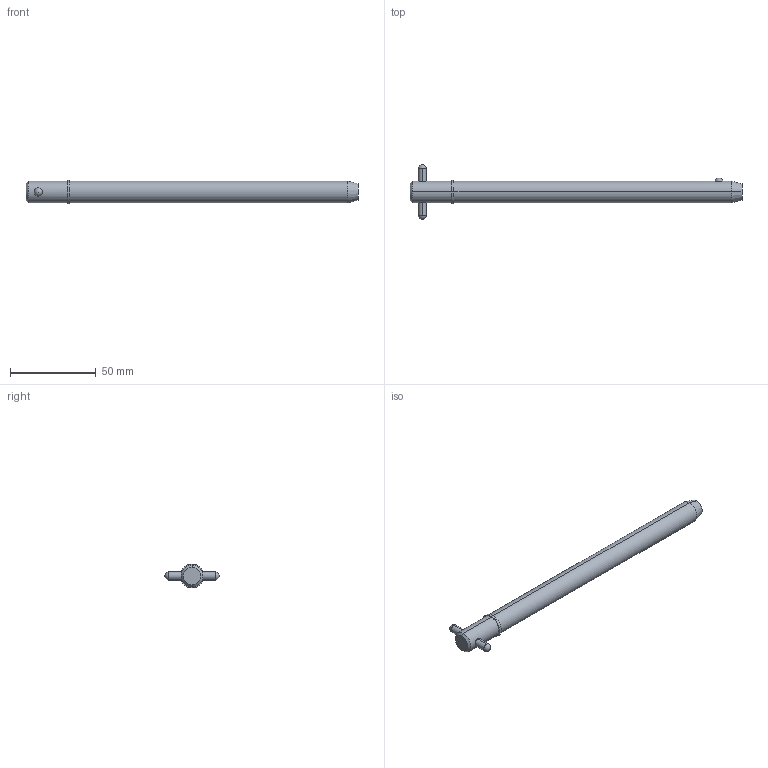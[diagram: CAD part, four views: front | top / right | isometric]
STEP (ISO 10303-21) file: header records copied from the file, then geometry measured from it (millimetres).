
FILE_DESCRIPTION (( 'STEP AP203' ), '1' );
FILE_NAME ('33018.W5060.step', '2024-11-19T17:15:49', ( '' ), ( '' ), 'SwSTEP 2.0', 'SolidWorks 2019', '' );
FILE_SCHEMA (( 'CONFIG_CONTROL_DESIGN' ));
Length unit declared in the file: millimetre
Products named in the file (3): Part2_33018.W5060; 33018.W5060; Part1_33018.W5060
Assembly tree (2 placements, depth 2):
  33018.W5060
    Part1_33018.W5060
    Part2_33018.W5060
Bounding box: 193.98 x 31.75 x 13.97 mm (x, y, z)
Volume: 24739.5 mm3; surface area: 8575.7 mm2
Topology: 2 solids, 2 shells, 22 faces, 47 edges, 30 vertices
Faces by surface type: cylinder 10, sphere 4, cone 4, plane 4
Entity records: 1043 total; most frequent: CARTESIAN_POINT 286, DIRECTION 110, ORIENTED_EDGE 82, AXIS2_PLACEMENT_3D 48, EDGE_CURVE 41, EDGE_LOOP 27, PERSON_AND_ORGANIZATION 26, VERTEX_POINT 26
